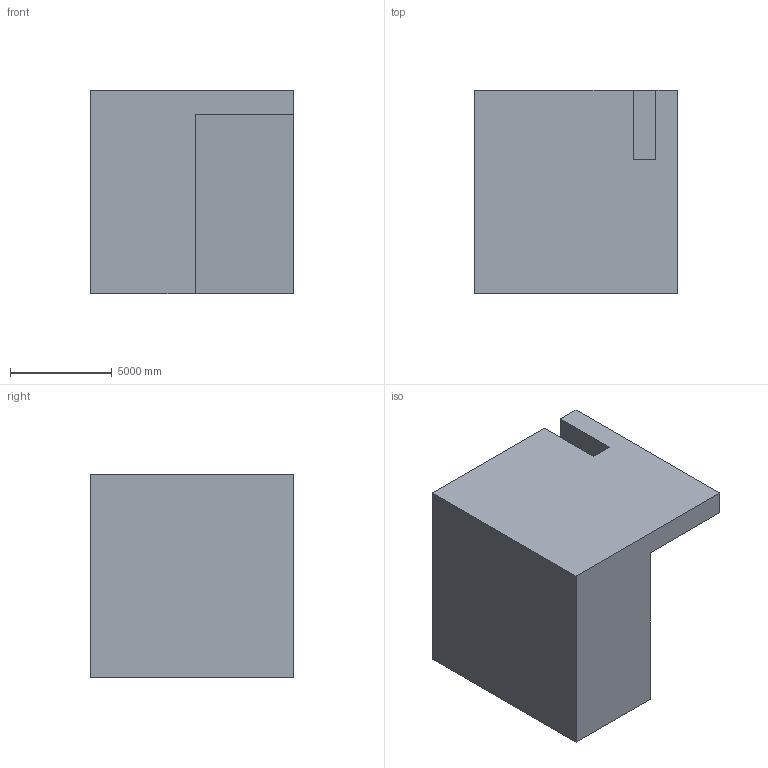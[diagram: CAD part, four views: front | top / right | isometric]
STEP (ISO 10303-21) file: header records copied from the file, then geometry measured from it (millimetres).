
FILE_DESCRIPTION (( 'STEP AP203' ), '1' );
FILE_NAME ('16.STEP', '2022-08-31T11:10:15', ( 'user' ), ( '' ), 'SwSTEP 2.0', 'SolidWorks 2021', '' );
FILE_SCHEMA (( 'CONFIG_CONTROL_DESIGN' ));
Length unit declared in the file: centimetre
Products named in the file (1): 16
Bounding box: 10000 x 10000 x 10000 mm (x, y, z)
Volume: 834932591945.3 mm3; surface area: 607271491.8 mm2
Topology: 1 solids, 1 shells, 12 faces, 30 edges, 20 vertices
Faces by surface type: plane 12
Entity records: 431 total; most frequent: CARTESIAN_POINT 63, ORIENTED_EDGE 60, DIRECTION 56, VECTOR 30, EDGE_CURVE 30, LINE 30, VERTEX_POINT 20, AXIS2_PLACEMENT_3D 13
